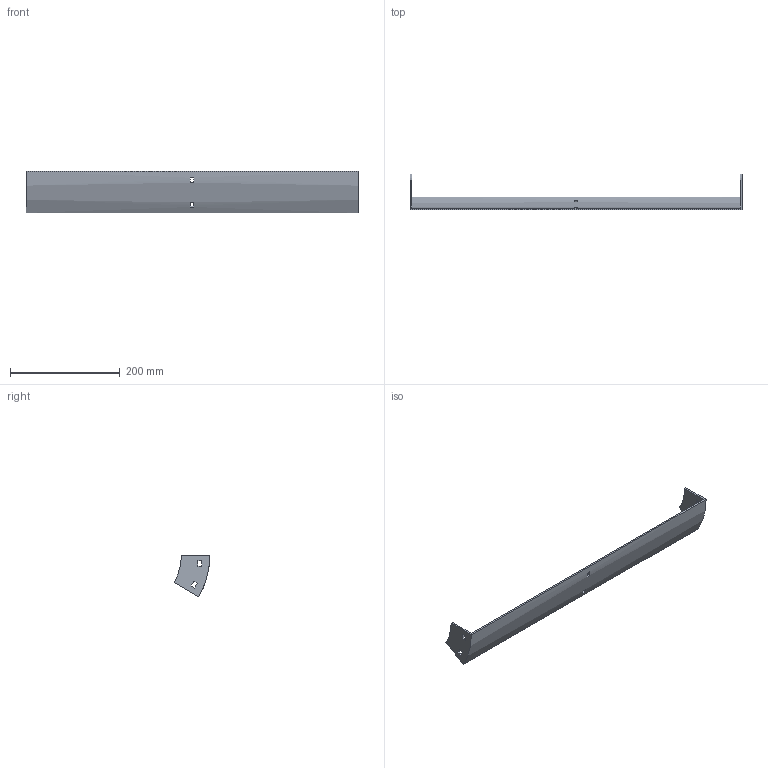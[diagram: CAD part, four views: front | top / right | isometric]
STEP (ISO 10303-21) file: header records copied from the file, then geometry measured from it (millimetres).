
FILE_DESCRIPTION (( 'STEP AP214' ), '1' );
FILE_NAME ('32B1B600.step', '2025-02-21T09:43:45', ( '' ), ( '' ), 'SwSTEP 2.0', 'SolidWorks 2023', '' );
FILE_SCHEMA (( 'AUTOMOTIVE_DESIGN' ));
Length unit declared in the file: millimetre
Products named in the file (1): 32B1B600
Bounding box: 604 x 65.4 x 76 mm (x, y, z)
Volume: 187004.7 mm3; surface area: 112834.2 mm2
Topology: 1 solids, 1 shells, 34 faces, 96 edges, 64 vertices
Faces by surface type: plane 30, cylinder 4
Entity records: 1143 total; most frequent: CARTESIAN_POINT 195, ORIENTED_EDGE 192, DIRECTION 182, EDGE_CURVE 96, LINE 80, VECTOR 80, VERTEX_POINT 64, AXIS2_PLACEMENT_3D 51
